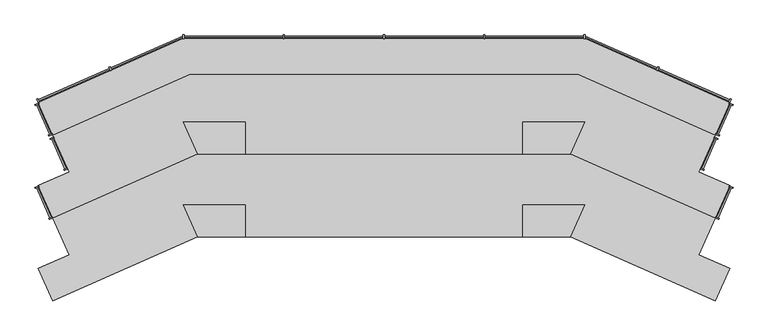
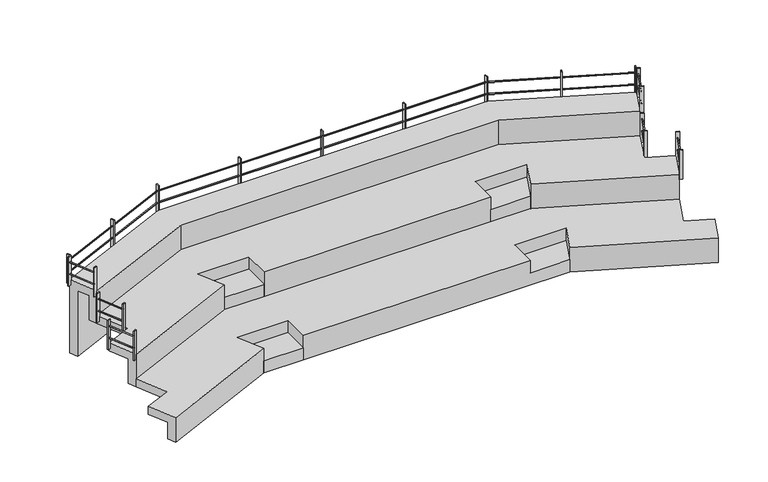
"""IFC4 building model written with IfcOpenShell, lengths in millimetres: furniture geometry, ARQ-EX-Gradas : ARQ-EX-Gradas."""

from ifc_helpers import new_model, si_unit, point, frame, frame_2d, origin, place, context, project, spatial, polyline, circle_curve, ellipse_curve, trimmed, segment, composite_curve, outline, extrude, faceted_brep, source, transform, mapped, element, save
from ifc_brep_helpers import plane_surface, cylinder_surface, advanced_brep


def furniture_39a86fb1(model_context):
    return source(origin(), model_context, "Body", "SolidModel", [
        extrude(outline(composite_curve([segment(trimmed(circle_curve(frame_2d((301.8849457, 0.0)), 8.5), [point((301.8849457, 8.5))], [point((301.8849457, -8.5))], False, "CARTESIAN"), True, "CONTINUOUS"), segment(trimmed(circle_curve(frame_2d((301.8849457, 0.0)), 8.5), [point((301.8849457, -8.5))], [point((301.8849457, 8.5))], False, "CARTESIAN"), True, "CONTINUOUS")], self_intersect=False)), frame((4266.1635944, -624.5538491, 800.0), z_axis=(0.4041473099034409, 0.9146939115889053, 0.0), x_axis=(0.0, 0.0, 1.0)), (0.0, 0.0, 1.0), 412.1943622),
        extrude(outline(composite_curve([segment(trimmed(circle_curve(frame_2d((106.8849457, 0.0)), 8.5), [point((106.8849457, 8.5))], [point((106.8849457, -8.5))], False, "CARTESIAN"), True, "CONTINUOUS"), segment(trimmed(circle_curve(frame_2d((106.8849457, 0.0)), 8.5), [point((106.8849457, -8.5))], [point((106.8849457, 8.5))], False, "CARTESIAN"), True, "CONTINUOUS")], self_intersect=False)), frame((4266.1635944, -624.5538491, 800.0), z_axis=(0.4041473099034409, 0.9146939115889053, 0.0), x_axis=(0.0, 0.0, 1.0)), (0.0, 0.0, 1.0), 412.1943622),
        extrude(outline(composite_curve([segment(trimmed(circle_curve(frame_2d((301.8849457, 0.0)), 8.5), [point((301.8849457, -8.5))], [point((301.8849457, 8.5))], False, "CARTESIAN"), True, "CONTINUOUS"), segment(trimmed(circle_curve(frame_2d((301.8849457, 0.0)), 8.5), [point((301.8849457, 8.5))], [point((301.8849457, -8.5))], False, "CARTESIAN"), True, "CONTINUOUS")], self_intersect=False)), frame((-4176.7629415, -624.5538491, 800.0), z_axis=(-0.4041473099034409, 0.9146939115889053, 0.0), x_axis=(0.0, 0.0, 1.0)), (0.0, 0.0, 1.0), 412.1943622),
        extrude(outline(composite_curve([segment(trimmed(circle_curve(frame_2d((106.8849457, 0.0)), 8.5), [point((106.8849457, -8.5))], [point((106.8849457, 8.5))], False, "CARTESIAN"), True, "CONTINUOUS"), segment(trimmed(circle_curve(frame_2d((106.8849457, 0.0)), 8.5), [point((106.8849457, 8.5))], [point((106.8849457, -8.5))], False, "CARTESIAN"), True, "CONTINUOUS")], self_intersect=False)), frame((-4176.7629415, -624.5538491, 800.0), z_axis=(-0.4041473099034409, 0.9146939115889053, 0.0), x_axis=(0.0, 0.0, 1.0)), (0.0, 0.0, 1.0), 412.1943622),
        extrude(outline(composite_curve([segment(trimmed(circle_curve(frame_2d((301.8849457, 0.0)), 8.5), [point((301.8849457, 8.5))], [point((301.8849457, -8.5))], False, "CARTESIAN"), True, "CONTINUOUS"), segment(trimmed(circle_curve(frame_2d((301.8849457, 0.0)), 8.5), [point((301.8849457, -8.5))], [point((301.8849457, 8.5))], False, "CARTESIAN"), True, "CONTINUOUS")], self_intersect=False)), frame((4076.0411383, -4.8520319, 800.0), z_axis=(0.4041473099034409, 0.9146939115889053, 0.0), x_axis=(0.0, 0.0, 1.0)), (0.0, 0.0, 1.0), 412.1943622),
        extrude(outline(composite_curve([segment(trimmed(circle_curve(frame_2d((106.8849457, 0.0)), 8.5), [point((106.8849457, 8.5))], [point((106.8849457, -8.5))], False, "CARTESIAN"), True, "CONTINUOUS"), segment(trimmed(circle_curve(frame_2d((106.8849457, 0.0)), 8.5), [point((106.8849457, -8.5))], [point((106.8849457, 8.5))], False, "CARTESIAN"), True, "CONTINUOUS")], self_intersect=False)), frame((4076.0411383, -4.8520319, 800.0), z_axis=(0.4041473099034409, 0.9146939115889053, 0.0), x_axis=(0.0, 0.0, 1.0)), (0.0, 0.0, 1.0), 412.1943622),
        extrude(outline(composite_curve([segment(trimmed(circle_curve(frame_2d((301.8849457, 0.0)), 8.5), [point((301.8849457, -8.4999999))], [point((301.8849457, 8.5000001))], False, "CARTESIAN"), True, "CONTINUOUS"), segment(trimmed(circle_curve(frame_2d((301.8849457, 0.0)), 8.5), [point((301.8849457, 8.5000001))], [point((301.8849457, -8.4999999))], False, "CARTESIAN"), True, "CONTINUOUS")], self_intersect=False)), frame((-3986.6404855, -4.8520319, 800.0), z_axis=(-0.4041473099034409, 0.9146939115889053, 0.0), x_axis=(0.0, 0.0, 1.0)), (0.0, 0.0, 1.0), 412.1943622),
        extrude(outline(composite_curve([segment(trimmed(circle_curve(frame_2d((106.8849457, 0.0)), 8.5), [point((106.8849457, -8.4999999))], [point((106.8849457, 8.5000001))], False, "CARTESIAN"), True, "CONTINUOUS"), segment(trimmed(circle_curve(frame_2d((106.8849457, 0.0)), 8.5), [point((106.8849457, 8.5000001))], [point((106.8849457, -8.4999999))], False, "CARTESIAN"), True, "CONTINUOUS")], self_intersect=False)), frame((-3986.6404855, -4.8520319, 800.0), z_axis=(-0.4041473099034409, 0.9146939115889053, 0.0), x_axis=(0.0, 0.0, 1.0)), (0.0, 0.0, 1.0), 412.1943622),
        extrude(outline(composite_curve([segment(trimmed(circle_curve(frame_2d((305.7775681, 0.0)), 8.5), [point((305.7775681, 8.4999999))], [point((305.7775681, -8.5))], False, "CARTESIAN"), True, "CONTINUOUS"), segment(trimmed(circle_curve(frame_2d((305.7775681, 0.0)), 8.5), [point((305.7775681, -8.5))], [point((305.7775681, 8.4999999))], False, "CARTESIAN"), True, "CONTINUOUS")], self_intersect=False)), frame((4268.184331, 430.0196205, 1200.0), z_axis=(0.40414730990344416, 0.9146939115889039, 0.0), x_axis=(0.0, 0.0, 1.0)), (0.0, 0.0, 1.0), 410.0),
        extrude(outline(composite_curve([segment(trimmed(circle_curve(frame_2d((110.7775681, 0.0)), 8.5), [point((110.7775681, 8.4999999))], [point((110.7775681, -8.5))], False, "CARTESIAN"), True, "CONTINUOUS"), segment(trimmed(circle_curve(frame_2d((110.7775681, 0.0)), 8.5), [point((110.7775681, -8.5))], [point((110.7775681, 8.4999999))], False, "CARTESIAN"), True, "CONTINUOUS")], self_intersect=False)), frame((4268.184331, 430.0196205, 1200.0), z_axis=(0.40414730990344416, 0.9146939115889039, 0.0), x_axis=(0.0, 0.0, 1.0)), (0.0, 0.0, 1.0), 410.0),
        extrude(outline(composite_curve([segment(trimmed(circle_curve(frame_2d((305.7775681, 0.0)), 8.5), [point((305.7775681, -8.4999999))], [point((305.7775681, 8.5))], False, "CARTESIAN"), True, "CONTINUOUS"), segment(trimmed(circle_curve(frame_2d((305.7775681, 0.0)), 8.5), [point((305.7775681, 8.5))], [point((305.7775681, -8.4999999))], False, "CARTESIAN"), True, "CONTINUOUS")], self_intersect=False)), frame((-4178.7836781, 430.0196205, 1200.0), z_axis=(-0.40414730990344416, 0.9146939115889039, 0.0), x_axis=(0.0, 0.0, 1.0)), (0.0, 0.0, 1.0), 410.0),
        extrude(outline(composite_curve([segment(trimmed(circle_curve(frame_2d((110.7775681, 0.0)), 8.5), [point((110.7775681, -8.4999999))], [point((110.7775681, 8.5))], False, "CARTESIAN"), True, "CONTINUOUS"), segment(trimmed(circle_curve(frame_2d((110.7775681, 0.0)), 8.5), [point((110.7775681, 8.5))], [point((110.7775681, -8.4999999))], False, "CARTESIAN"), True, "CONTINUOUS")], self_intersect=False)), frame((-4178.7836781, 430.0196205, 1200.0), z_axis=(-0.40414730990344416, 0.9146939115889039, 0.0), x_axis=(0.0, 0.0, 1.0)), (0.0, 0.0, 1.0), 410.0),
        advanced_brep(
        [(-4329.5181998, 870.1461409, 1306.5093631), (-4322.6476955, 854.5963444, 1306.5093631), (-2502.0938257, 1677.5732326, 1306.5093631), (-2498.5055214, 1660.5732326, 1306.5093631), (2591.4944786, 1677.5732326, 1306.5093631), (2587.9061743, 1660.5732326, 1306.5093631), (4432.6392613, 864.0839313, 1306.5093631), (4425.768757, 848.5341348, 1306.5093631)],
        [
            (0, 1, circle_curve(frame((-4326.0829476, 862.3712427, 1306.5093631), z_axis=(-0.9146939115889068, -0.40414730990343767, 0.0), x_axis=(0.40414730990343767, -0.9146939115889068, 0.0)), 8.5)),
            (1, 0, circle_curve(frame((-4326.0829476, 862.3712427, 1306.5093631), z_axis=(-0.9146939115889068, -0.40414730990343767, 0.0), x_axis=(0.40414730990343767, -0.9146939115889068, 0.0)), 8.5)),
            (0, 2),
            (2, 3, ellipse_curve(frame((-2500.2996736, 1669.0732326, 1306.5093631), z_axis=(-0.9784410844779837, -0.20652613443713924, 0.0), x_axis=(0.20652613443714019, -0.9784410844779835, 0.0)), 8.6872885, 8.5)),
            (3, 1),
            (3, 2, ellipse_curve(frame((-2500.2996736, 1669.0732326, 1306.5093631), z_axis=(-0.9784410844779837, -0.20652613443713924, 0.0), x_axis=(0.20652613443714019, -0.9784410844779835, 0.0)), 8.6872885, 8.5)),
            (2, 4),
            (4, 5, ellipse_curve(frame((2589.7003264, 1669.0732326, 1306.5093631), z_axis=(-0.9784410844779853, 0.20652613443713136, 0.0), x_axis=(-0.2065261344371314, -0.9784410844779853, 0.0)), 8.6872885, 8.5)),
            (5, 3),
            (5, 4, ellipse_curve(frame((2589.7003264, 1669.0732326, 1306.5093631), z_axis=(-0.9784410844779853, 0.20652613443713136, 0.0), x_axis=(-0.2065261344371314, -0.9784410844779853, 0.0)), 8.6872885, 8.5)),
            (6, 7, circle_curve(frame((4429.2040092, 856.309033, 1306.5093631), z_axis=(0.9146939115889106, -0.404147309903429, 0.0), x_axis=(-0.404147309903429, -0.9146939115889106, 0.0)), 8.5)),
            (7, 6, circle_curve(frame((4429.2040092, 856.309033, 1306.5093631), z_axis=(0.9146939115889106, -0.404147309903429, 0.0), x_axis=(-0.404147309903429, -0.9146939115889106, 0.0)), 8.5)),
            (4, 6),
            (7, 5),
        ],
        [
            plane_surface(frame((-4326.0829476, 862.3712427, 1200.0), z_axis=(-0.9146939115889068, -0.4041473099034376, 0.0), x_axis=(0.0, 0.0, 1.0))),
            cylinder_surface(frame((-4326.0829476, 862.3712427, 1306.5093631), z_axis=(-0.9146939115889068, -0.40414730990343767, 0.0), x_axis=(0.40414730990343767, -0.9146939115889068, 0.0)), 8.5),
            cylinder_surface(frame((-2500.2996736, 1669.0732326, 1306.5093631), z_axis=(-1.0, 0.0, 0.0), x_axis=(0.0, -1.0, 0.0)), 8.5),
            plane_surface(frame((4429.2040092, 856.309033, 1200.0), z_axis=(0.9146939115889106, -0.4041473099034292, 0.0), x_axis=(0.0, 0.0, 1.0))),
            cylinder_surface(frame((2589.7003264, 1669.0732326, 1306.5093631), z_axis=(-0.9146939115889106, 0.404147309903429, 0.0), x_axis=(-0.404147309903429, -0.9146939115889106, 0.0)), 8.5),
        ],
        [
            (0, [[1, 2]]),
            (1, [[-1, 3, 4, 5]]),
            (1, [[-2, -5, 6, -3]]),
            (2, [[-4, 7, 8, 9]]),
            (2, [[-6, -9, 10, -7]]),
            (3, [[11, 12]]),
            (4, [[-8, 13, -12, 14]]),
            (4, [[-10, -14, -11, -13]]),
        ],
    ),
        advanced_brep(
        [(-4329.5181998, 870.1461409, 1501.5093631), (-4322.6476955, 854.5963444, 1501.5093631), (-2502.0938257, 1677.5732326, 1501.5093631), (-2498.5055214, 1660.5732326, 1501.5093631), (2591.4944786, 1677.5732326, 1501.5093631), (2587.9061743, 1660.5732326, 1501.5093631), (4432.6392613, 864.0839313, 1501.5093631), (4425.768757, 848.5341348, 1501.5093631)],
        [
            (0, 1, circle_curve(frame((-4326.0829476, 862.3712427, 1501.5093631), z_axis=(-0.9146939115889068, -0.40414730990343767, 0.0), x_axis=(0.40414730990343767, -0.9146939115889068, 0.0)), 8.5)),
            (1, 0, circle_curve(frame((-4326.0829476, 862.3712427, 1501.5093631), z_axis=(-0.9146939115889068, -0.40414730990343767, 0.0), x_axis=(0.40414730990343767, -0.9146939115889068, 0.0)), 8.5)),
            (0, 2),
            (2, 3, ellipse_curve(frame((-2500.2996736, 1669.0732326, 1501.5093631), z_axis=(-0.9784410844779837, -0.20652613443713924, 0.0), x_axis=(0.20652613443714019, -0.9784410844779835, 0.0)), 8.6872885, 8.5)),
            (3, 1),
            (3, 2, ellipse_curve(frame((-2500.2996736, 1669.0732326, 1501.5093631), z_axis=(-0.9784410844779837, -0.20652613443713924, 0.0), x_axis=(0.20652613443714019, -0.9784410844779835, 0.0)), 8.6872885, 8.5)),
            (2, 4),
            (4, 5, ellipse_curve(frame((2589.7003264, 1669.0732326, 1501.5093631), z_axis=(-0.9784410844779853, 0.20652613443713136, 0.0), x_axis=(-0.2065261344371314, -0.9784410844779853, 0.0)), 8.6872885, 8.5)),
            (5, 3),
            (5, 4, ellipse_curve(frame((2589.7003264, 1669.0732326, 1501.5093631), z_axis=(-0.9784410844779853, 0.20652613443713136, 0.0), x_axis=(-0.2065261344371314, -0.9784410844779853, 0.0)), 8.6872885, 8.5)),
            (6, 7, circle_curve(frame((4429.2040092, 856.309033, 1501.5093631), z_axis=(0.9146939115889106, -0.404147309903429, 0.0), x_axis=(-0.404147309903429, -0.9146939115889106, 0.0)), 8.5)),
            (7, 6, circle_curve(frame((4429.2040092, 856.309033, 1501.5093631), z_axis=(0.9146939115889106, -0.404147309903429, 0.0), x_axis=(-0.404147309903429, -0.9146939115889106, 0.0)), 8.5)),
            (4, 6),
            (7, 5),
        ],
        [
            plane_surface(frame((-4326.0829476, 862.3712427, 1200.0), z_axis=(-0.9146939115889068, -0.4041473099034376, 0.0), x_axis=(0.0, 0.0, 1.0))),
            cylinder_surface(frame((-4326.0829476, 862.3712427, 1501.5093631), z_axis=(-0.9146939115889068, -0.40414730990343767, 0.0), x_axis=(0.40414730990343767, -0.9146939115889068, 0.0)), 8.5),
            cylinder_surface(frame((-2500.2996736, 1669.0732326, 1501.5093631), z_axis=(-1.0, 0.0, 0.0), x_axis=(0.0, -1.0, 0.0)), 8.5),
            plane_surface(frame((4429.2040092, 856.309033, 1200.0), z_axis=(0.9146939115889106, -0.4041473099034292, 0.0), x_axis=(0.0, 0.0, 1.0))),
            cylinder_surface(frame((2589.7003264, 1669.0732326, 1501.5093631), z_axis=(-0.9146939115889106, 0.404147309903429, 0.0), x_axis=(-0.404147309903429, -0.9146939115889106, 0.0)), 8.5),
        ],
        [
            (0, [[1, 2]]),
            (1, [[-1, 3, 4, 5]]),
            (1, [[-2, -5, 6, -3]]),
            (2, [[-4, 7, 8, 9]]),
            (2, [[-6, -9, 10, -7]]),
            (3, [[11, 12]]),
            (4, [[-8, 13, -12, 14]]),
            (4, [[-10, -14, -11, -13]]),
        ],
    ),
        faceted_brep([(1794.7003264, 591.7416852, 600.0), (1794.7003264, 180.129425, 600.0), (2407.834037, 180.129425, 600.0), (2589.7003264, 591.7416852, 600.0), (1794.7003264, 591.7416852, 470.0), (2589.7003264, 591.7416852, 470.0), (2465.273088, 310.129425, 470.0), (1794.7003264, 310.129425, 470.0), (2407.834037, 180.129425, 400.0), (2465.273088, 310.129425, 400.0), (1794.7003264, 180.129425, 400.0), (1794.7003264, 310.129425, 400.0)], [[[0, 1, 2, 3]], [[4, 5, 6, 7]], [[0, 3, 5, 4]], [[3, 2, 8, 9, 6, 5]], [[8, 2, 1, 10]], [[10, 1, 0, 4, 7, 11]], [[10, 11, 9, 8]], [[9, 11, 7, 6]]]),
        faceted_brep([(-1705.2996736, -869.870575, 0.0), (-2318.4333841, -869.870575, 0.0), (-2375.8724352, -739.870575, 0.0), (-1705.2996736, -739.870575, 0.0), (-1705.2996736, -739.870575, 70.0), (-1705.2996736, -458.2583148, 70.0), (-1705.2996736, -458.2583148, 200.0), (-1705.2996736, -869.870575, 200.0), (-2375.8724352, -739.870575, 70.0), (-2318.4333841, -869.870575, 200.0), (-2500.2996736, -458.2583148, 200.0), (-2500.2996736, -458.2583148, 70.0)], [[[0, 1, 2, 3]], [[0, 3, 4, 5, 6, 7]], [[3, 2, 8, 4]], [[2, 1, 9, 10, 11, 8]], [[9, 1, 0, 7]], [[6, 10, 9, 7]], [[11, 5, 4, 8]], [[10, 6, 5, 11]]]),
        faceted_brep([(-1705.2996736, -458.2583148, 70.0), (-2500.2996736, -458.2583148, 70.0), (-2370.9725344, -750.9603665, 70.0), (-2489.8827429, -803.4995168, 70.0), (-2699.8627711, -328.2583148, 70.0), (-1575.2996736, -328.2583148, 70.0), (-1575.2996736, -739.870575, 70.0), (-1705.2996736, -739.870575, 70.0), (-1705.2996736, -739.870575, 0.0), (-1705.2996736, -869.870575, 0.0), (-1705.2996736, -869.870575, 400.0), (-1705.2996736, -458.2583148, 400.0), (-1575.2996736, -328.2583148, 270.0), (-1575.2996736, -739.870575, 270.0), (-2699.8627711, -328.2583148, 270.0), (-2489.8827429, -803.4995168, 270.0), (-2500.2996736, -458.2583148, 400.0), (-2318.4333841, -869.870575, 400.0), (-2318.4333841, -869.870575, 0.0), (-2370.9725344, -750.9603665, 0.0), (1794.7003264, -458.2583148, 0.0), (2589.7003264, -458.2583148, 0.0), (2589.7003264, -458.2583148, 70.0), (1794.7003264, -458.2583148, 70.0), (2589.7003264, -458.2583148, 400.0), (1794.7003264, -458.2583148, 400.0), (1794.7003264, -458.2583148, 200.0), (2589.7003264, -458.2583148, 200.0), (-2318.4333841, 180.129425, 270.0), (2407.834037, 180.129425, 270.0), (4237.234037, -628.170575, 270.0), (4030.9456885, -1095.0565143, 270.0), (4419.1003264, -1266.5583148, 270.0), (4289.7731873, -1559.2603665, 270.0), (2579.2833958, -803.4995168, 270.0), (2789.263424, -328.2583148, 270.0), (1664.7003264, -328.2583148, 270.0), (1664.7003264, -739.870575, 270.0), (-4200.3725344, -1559.2603665, 270.0), (-4329.6996736, -1266.5583148, 270.0), (-3941.5450356, -1095.0565143, 270.0), (-4147.8333841, -628.170575, 270.0), (-2318.4333841, 180.129425, 400.0), (-4147.8333841, -628.170575, 400.0), (-3941.5450356, -1095.0565143, 400.0), (-4329.6996736, -1266.5583148, 400.0), (-4147.8333841, -1678.170575, 400.0), (1794.7003264, -869.870575, 400.0), (2407.834037, -869.870575, 400.0), (4237.234037, -1678.170575, 400.0), (4419.1003264, -1266.5583148, 400.0), (4030.9456885, -1095.0565143, 400.0), (4237.234037, -628.170575, 400.0), (2407.834037, 180.129425, 400.0), (-4200.3725344, -1559.2603665, 0.0), (-4147.8333841, -1678.170575, 0.0), (1794.7003264, -869.870575, 200.0), (2407.834037, -869.870575, 200.0), (2465.273088, -739.870575, 70.0), (1794.7003264, -739.870575, 70.0), (2407.834037, -869.870575, 0.0), (4237.234037, -1678.170575, 0.0), (4289.7731873, -1559.2603665, 0.0), (2465.273088, -739.870575, 0.0), (2579.2833958, -803.4995168, 0.0), (1664.7003264, -739.870575, 0.0), (1664.7003264, -328.2583148, 0.0), (2789.263424, -328.2583148, 0.0), (1794.7003264, -739.870575, 0.0)], [[[0, 1, 2, 3, 4, 5, 6, 7]], [[0, 7, 8, 9, 10, 11]], [[6, 5, 12, 13]], [[5, 4, 14, 12]], [[4, 3, 15, 14]], [[2, 1, 16, 17, 18, 19]], [[1, 0, 11, 16]], [[20, 21, 22, 23]], [[24, 25, 26, 27]], [[28, 29, 30, 31, 32, 33, 34, 35, 36, 37, 13, 12, 14, 15, 38, 39, 40, 41]], [[42, 43, 44, 45, 46, 17, 16, 11, 10, 47, 25, 24, 48, 49, 50, 51, 52, 53]], [[28, 41, 43, 42]], [[41, 40, 44, 43]], [[31, 30, 52, 51]], [[30, 29, 53, 52]], [[29, 28, 42, 53]], [[45, 39, 38, 54, 55, 46]], [[39, 45, 44, 40]], [[54, 38, 15, 3, 2, 19]], [[55, 54, 19, 18]], [[46, 55, 18, 17]], [[56, 57, 27, 26]], [[23, 22, 58, 59]], [[57, 56, 47, 10, 9, 60]], [[50, 49, 61, 62, 33, 32]], [[22, 21, 63, 58]], [[48, 24, 27, 57]], [[50, 32, 31, 51]], [[33, 62, 64, 34]], [[62, 61, 60, 9, 8, 65, 66, 67, 64], [20, 68, 63, 21]], [[61, 49, 48, 57, 60]], [[20, 23, 59, 68]], [[25, 47, 56, 26]], [[8, 7, 6, 13, 37, 65]], [[36, 66, 65, 37]], [[67, 66, 36, 35]], [[64, 67, 35, 34]], [[63, 68, 59, 58]]]),
        faceted_brep([(4030.9456885, -45.0565143, 800.0), (4237.234037, 421.829425, 800.0), (2494.7158026, 1191.7416852, 800.0), (-2405.3151497, 1191.7416852, 800.0), (-4147.8333841, 421.829425, 800.0), (-3941.5450356, -45.0565143, 800.0), (-4329.6996736, -216.5583148, 800.0), (-4147.8333841, -628.170575, 800.0), (-2318.4333841, 180.129425, 800.0), (-2500.2996736, 591.7416852, 800.0), (-1705.2996736, 591.7416852, 800.0), (-1705.2996736, 180.129425, 800.0), (1794.7003264, 180.129425, 800.0), (1794.7003264, 591.7416852, 800.0), (2589.7003264, 591.7416852, 800.0), (2407.834037, 180.129425, 800.0), (4237.234037, -628.170575, 800.0), (4419.1003264, -216.5583148, 800.0), (-3941.5450356, -45.0565143, 670.0), (-4147.8333841, 421.829425, 670.0), (-2405.3151497, 1191.7416852, 670.0), (2494.7158026, 1191.7416852, 670.0), (4237.234037, 421.829425, 670.0), (4030.9456885, -45.0565143, 670.0), (4419.1003264, -216.5583148, 670.0), (4289.7731873, -509.2603665, 670.0), (2579.2833958, 246.5004832, 670.0), (2789.263424, 721.7416852, 670.0), (1664.7003264, 721.7416852, 670.0), (1664.7003264, 310.129425, 670.0), (-1575.2996736, 310.129425, 670.0), (-1575.2996736, 721.7416852, 670.0), (-2699.8627711, 721.7416852, 670.0), (-2489.8827429, 246.5004832, 670.0), (-4200.3725344, -509.2603665, 670.0), (-4329.6996736, -216.5583148, 670.0), (1794.7003264, 591.7416852, 400.0), (2589.7003264, 591.7416852, 400.0), (-2500.2996736, 591.7416852, 470.0), (-1705.2996736, 591.7416852, 470.0), (-2370.9725344, 299.0396335, 470.0), (-2489.8827429, 246.5004832, 470.0), (-2699.8627711, 721.7416852, 470.0), (-1575.2996736, 721.7416852, 470.0), (-1575.2996736, 310.129425, 470.0), (-1705.2996736, 310.129425, 470.0), (-1705.2996736, 310.129425, 270.0), (-1705.2996736, 180.129425, 270.0), (-2318.4333841, 180.129425, 270.0), (-2370.9725344, 299.0396335, 270.0), (-4200.3725344, -509.2603665, 270.0), (-4147.8333841, -628.170575, 270.0), (1794.7003264, 180.129425, 270.0), (1794.7003264, 310.129425, 270.0), (1794.7003264, 310.129425, 400.0), (1664.7003264, 310.129425, 400.0), (4237.234037, -628.170575, 270.0), (4289.7731873, -509.2603665, 270.0), (2460.3731873, 299.0396335, 270.0), (2407.834037, 180.129425, 270.0), (2460.3731873, 299.0396335, 400.0), (2579.2833958, 246.5004832, 400.0), (1664.7003264, 721.7416852, 400.0), (2789.263424, 721.7416852, 400.0)], [[[0, 1, 2, 3, 4, 5, 6, 7, 8, 9, 10, 11, 12, 13, 14, 15, 16, 17]], [[18, 19, 20, 21, 22, 23, 24, 25, 26, 27, 28, 29, 30, 31, 32, 33, 34, 35]], [[1, 0, 23, 22]], [[2, 1, 22, 21]], [[3, 2, 21, 20]], [[4, 3, 20, 19]], [[5, 4, 19, 18]], [[14, 13, 36, 37]], [[38, 39, 10, 9]], [[39, 38, 40, 41, 42, 43, 44, 45]], [[39, 45, 46, 47, 11, 10]], [[44, 43, 31, 30]], [[43, 42, 32, 31]], [[42, 41, 33, 32]], [[40, 38, 9, 8, 48, 49]], [[6, 35, 34, 50, 51, 7]], [[35, 6, 5, 18]], [[50, 34, 33, 41, 40, 49]], [[51, 50, 49, 48]], [[7, 51, 48, 8]], [[36, 13, 12, 52, 53, 54]], [[53, 46, 45, 44, 30, 29, 55, 54]], [[47, 46, 53, 52]], [[11, 47, 52, 12]], [[17, 16, 56, 57, 25, 24]], [[58, 59, 15, 14, 37, 60]], [[17, 24, 23, 0]], [[25, 57, 58, 60, 61, 26]], [[57, 56, 59, 58]], [[56, 16, 15, 59]], [[36, 54, 55, 62, 63, 61, 60, 37]], [[62, 55, 29, 28]], [[63, 62, 28, 27]], [[61, 63, 27, 26]]]),
        faceted_brep([(-1705.2996736, 591.7416852, 600.0), (-2500.2996736, 591.7416852, 600.0), (-2318.4333841, 180.129425, 600.0), (-1705.2996736, 180.129425, 600.0), (-2500.2996736, 591.7416852, 470.0), (-1705.2996736, 591.7416852, 470.0), (-1705.2996736, 310.129425, 470.0), (-2375.8724352, 310.129425, 470.0), (-2375.8724352, 310.129425, 400.0), (-2318.4333841, 180.129425, 400.0), (-1705.2996736, 180.129425, 400.0), (-1705.2996736, 310.129425, 400.0)], [[[0, 1, 2, 3]], [[4, 5, 6, 7]], [[1, 0, 5, 4]], [[2, 1, 4, 7, 8, 9]], [[3, 2, 9, 10]], [[0, 3, 10, 11, 6, 5]], [[10, 9, 8, 11]], [[11, 8, 7, 6]]]),
        extrude(outline(polyline([(-4136.42259, 396.0037331), (-4130.3603803, 382.2833244), (-4176.0950759, 362.0759589), (-4182.1572855, 375.7963676), (-4136.42259, 396.0037331)])), frame((0.0, 0.0, 725.0), z_axis=(0.0, 0.0, 1.0), x_axis=(1.0, 0.0, 0.0)), (0.0, 0.0, 1.0), 475.0),
        extrude(outline(polyline([(-3963.7731377, 5.2516509), (-3957.710928, -8.4687578), (-4003.4456236, -28.6761233), (-4009.5078332, -14.9557146), (-3963.7731377, 5.2516509)])), frame((0.0, 0.0, 725.0), z_axis=(0.0, 0.0, 1.0), x_axis=(1.0, 0.0, 0.0)), (0.0, 0.0, 1.0), 475.0),
        extrude(outline(polyline([(-4326.5450461, -223.6980841), (-4320.4828364, -237.4184928), (-4366.217532, -257.6258583), (-4372.2797416, -243.9054496), (-4326.5450461, -223.6980841)])), frame((0.0, 0.0, 725.0), z_axis=(0.0, 0.0, 1.0), x_axis=(1.0, 0.0, 0.0)), (0.0, 0.0, 1.0), 475.0),
        extrude(outline(polyline([(-4153.8955938, -614.4501663), (-4147.8333841, -628.170575), (-4193.5680797, -648.3779405), (-4199.6302893, -634.6575318), (-4153.8955938, -614.4501663)])), frame((0.0, 0.0, 725.0), z_axis=(0.0, 0.0, 1.0), x_axis=(1.0, 0.0, 0.0)), (0.0, 0.0, 1.0), 475.0),
        extrude(outline(polyline([(4415.9456989, -223.6980841), (4461.6803945, -243.9054496), (4455.6181849, -257.6258583), (4409.8834893, -237.4184928), (4415.9456989, -223.6980841)])), frame((0.0, 0.0, 725.0), z_axis=(0.0, 0.0, 1.0), x_axis=(1.0, 0.0, 0.0)), (0.0, 0.0, 1.0), 475.0),
        extrude(outline(polyline([(4243.2962466, -614.4501663), (4289.0309422, -634.6575318), (4282.9687326, -648.3779405), (4237.234037, -628.170575), (4243.2962466, -614.4501663)])), frame((0.0, 0.0, 725.0), z_axis=(0.0, 0.0, 1.0), x_axis=(1.0, 0.0, 0.0)), (0.0, 0.0, 1.0), 475.0),
        extrude(outline(polyline([(4225.8232428, 396.0037331), (4271.5579384, 375.7963676), (4265.4957288, 362.0759589), (4219.7610332, 382.2833244), (4225.8232428, 396.0037331)])), frame((0.0, 0.0, 725.0), z_axis=(0.0, 0.0, 1.0), x_axis=(1.0, 0.0, 0.0)), (0.0, 0.0, 1.0), 475.0),
        extrude(outline(polyline([(4053.1737905, 5.2516509), (4098.9084861, -14.9557146), (4092.8462765, -28.6761233), (4047.1115809, -8.4687578), (4053.1737905, 5.2516509)])), frame((0.0, 0.0, 725.0), z_axis=(0.0, 0.0, 1.0), x_axis=(1.0, 0.0, 0.0)), (0.0, 0.0, 1.0), 475.0),
        extrude(outline(polyline([(-2485.2996736, 1641.7416852), (-2500.2996736, 1641.7416852), (-2500.2996736, 1691.7416852), (-2485.2996736, 1691.7416852), (-2485.2996736, 1641.7416852)])), frame((0.0, 0.0, 1125.0), z_axis=(0.0, 0.0, 1.0), x_axis=(1.0, 0.0, 0.0)), (0.0, 0.0, 1.0), 475.0),
        extrude(outline(polyline([(-1216.5496736, 1641.7416852), (-1231.5496736, 1641.7416852), (-1231.5496736, 1691.7416852), (-1216.5496736, 1691.7416852), (-1216.5496736, 1641.7416852)])), frame((0.0, 0.0, 1125.0), z_axis=(0.0, 0.0, 1.0), x_axis=(1.0, 0.0, 0.0)), (0.0, 0.0, 1.0), 475.0),
        extrude(outline(polyline([(52.2003264, 1641.7416852), (37.2003264, 1641.7416852), (37.2003264, 1691.7416852), (52.2003264, 1691.7416852), (52.2003264, 1641.7416852)])), frame((0.0, 0.0, 1125.0), z_axis=(0.0, 0.0, 1.0), x_axis=(1.0, 0.0, 0.0)), (0.0, 0.0, 1.0), 475.0),
        extrude(outline(polyline([(1320.9503264, 1641.7416852), (1305.9503264, 1641.7416852), (1305.9503264, 1691.7416852), (1320.9503264, 1691.7416852), (1320.9503264, 1641.7416852)])), frame((0.0, 0.0, 1125.0), z_axis=(0.0, 0.0, 1.0), x_axis=(1.0, 0.0, 0.0)), (0.0, 0.0, 1.0), 475.0),
        extrude(outline(polyline([(2589.7003264, 1641.7416852), (2574.7003264, 1641.7416852), (2574.7003264, 1691.7416852), (2589.7003264, 1691.7416852), (2589.7003264, 1641.7416852)])), frame((0.0, 0.0, 1125.0), z_axis=(0.0, 0.0, 1.0), x_axis=(1.0, 0.0, 0.0)), (0.0, 0.0, 1.0), 475.0),
        extrude(outline(polyline([(-4315.9792649, 839.5038949), (-4329.6996736, 833.4416852), (-4349.9070391, 879.1763808), (-4336.1866304, 885.2385905), (-4315.9792649, 839.5038949)])), frame((0.0, 0.0, 1125.0), z_axis=(0.0, 0.0, 1.0), x_axis=(1.0, 0.0, 0.0)), (0.0, 0.0, 1.0), 475.0),
        extrude(outline(polyline([(-3401.8644821, 1243.3953232), (-3415.5848908, 1237.3331135), (-3435.7922563, 1283.0678091), (-3422.0718476, 1289.1300188), (-3401.8644821, 1243.3953232)])), frame((0.0, 0.0, 1125.0), z_axis=(0.0, 0.0, 1.0), x_axis=(1.0, 0.0, 0.0)), (0.0, 0.0, 1.0), 475.0),
        extrude(outline(polyline([(4405.3799178, 839.5038949), (4425.5872833, 885.2385905), (4439.3076919, 879.1763808), (4419.1003264, 833.4416852), (4405.3799178, 839.5038949)])), frame((0.0, 0.0, 1125.0), z_axis=(0.0, 0.0, 1.0), x_axis=(1.0, 0.0, 0.0)), (0.0, 0.0, 1.0), 475.0),
        extrude(outline(polyline([(3491.265135, 1243.3953232), (3511.4725005, 1289.1300188), (3525.1929091, 1283.0678091), (3504.9855436, 1237.3331135), (3491.265135, 1243.3953232)])), frame((0.0, 0.0, 1125.0), z_axis=(0.0, 0.0, 1.0), x_axis=(1.0, 0.0, 0.0)), (0.0, 0.0, 1.0), 475.0),
        extrude(outline(polyline([(-4327.678937, 828.8682157), (-4321.6167274, 815.147807), (-4367.3514229, 794.9404415), (-4373.4136326, 808.6608502), (-4327.678937, 828.8682157)])), frame((0.0, 0.0, 1125.0), z_axis=(0.0, 0.0, 1.0), x_axis=(1.0, 0.0, 0.0)), (0.0, 0.0, 1.0), 475.0),
        extrude(outline(polyline([(-4155.9163303, 440.1233033), (-4149.8541207, 426.4028946), (-4195.5888162, 406.1955291), (-4201.6510259, 419.9159378), (-4155.9163303, 440.1233033)])), frame((0.0, 0.0, 1125.0), z_axis=(0.0, 0.0, 1.0), x_axis=(1.0, 0.0, 0.0)), (0.0, 0.0, 1.0), 475.0),
        extrude(outline(polyline([(4245.3169832, 440.1233033), (4291.0516788, 419.9159378), (4284.9894691, 406.1955291), (4239.2547735, 426.4028946), (4245.3169832, 440.1233033)])), frame((0.0, 0.0, 1125.0), z_axis=(0.0, 0.0, 1.0), x_axis=(1.0, 0.0, 0.0)), (0.0, 0.0, 1.0), 475.0),
        extrude(outline(polyline([(4417.0795899, 828.8682157), (4462.8142855, 808.6608502), (4456.7520758, 794.9404415), (4411.0173802, 815.147807), (4417.0795899, 828.8682157)])), frame((0.0, 0.0, 1125.0), z_axis=(0.0, 0.0, 1.0), x_axis=(1.0, 0.0, 0.0)), (0.0, 0.0, 1.0), 475.0),
        faceted_brep([(-4329.6996736, 833.4416852, 0.0), (-4277.1605233, 714.5314767, 0.0), (-4277.1605233, 714.5314767, 1070.0), (-4200.3725344, 540.7396335, 1070.0), (-4200.3725344, 540.7396335, 670.0), (-4147.8333841, 421.829425, 670.0), (-4147.8333841, 421.829425, 1200.0), (-4329.6996736, 833.4416852, 1200.0), (4419.1003264, 833.4416852, 1200.0), (4237.234037, 421.829425, 1200.0), (4237.234037, 421.829425, 670.0), (4289.7731873, 540.7396335, 670.0), (4289.7731873, 540.7396335, 1070.0), (4366.5611761, 714.5314767, 1070.0), (4366.5611761, 714.5314767, 0.0), (4419.1003264, 833.4416852, 0.0), (-2500.2996736, 1641.7416852, 1200.0), (-2500.2996736, 1641.7416852, 1070.0), (-2500.2996736, 1641.7416852, 0.0), (2522.1557762, 1321.7416852, 1070.0), (-2432.7551233, 1321.7416852, 1070.0), (-2447.7605233, 1522.8314767, 1070.0), (-985.2996736, 1641.7416852, 1070.0), (-985.2996736, 1511.7416852, 1070.0), (1074.7003264, 1511.7416852, 1070.0), (1074.7003264, 1641.7416852, 1070.0), (2589.7003264, 1641.7416852, 1070.0), (2537.1611761, 1522.8314767, 1070.0), (-2432.7551233, 1321.7416852, 670.0), (2522.1557762, 1321.7416852, 670.0), (2494.7158026, 1191.7416852, 670.0), (-2405.3151497, 1191.7416852, 670.0), (-2405.3151497, 1191.7416852, 1200.0), (2494.7158026, 1191.7416852, 1200.0), (2589.7003264, 1641.7416852, 1200.0), (1074.7003264, 1641.7416852, 0.0), (-985.2996736, 1641.7416852, 0.0), (2589.7003264, 1641.7416852, 0.0), (-2447.7605233, 1522.8314767, 0.0), (2537.1611761, 1522.8314767, 0.0), (-985.2996736, 1511.7416852, 0.0), (1074.7003264, 1511.7416852, 0.0)], [[[0, 1, 2, 3, 4, 5, 6, 7]], [[8, 9, 10, 11, 12, 13, 14, 15]], [[0, 7, 16, 17, 18]], [[12, 19, 20, 3, 2, 21, 17, 22, 23, 24, 25, 26, 27, 13]], [[4, 3, 20, 28]], [[5, 4, 28, 29, 11, 10, 30, 31]], [[6, 5, 31, 32]], [[7, 6, 32, 33, 9, 8, 34, 16]], [[17, 16, 34, 26, 25, 35, 36, 22]], [[20, 19, 29, 28]], [[31, 30, 33, 32]], [[8, 15, 37, 26, 34]], [[12, 11, 29, 19]], [[10, 9, 33, 30]], [[1, 0, 18, 38]], [[14, 39, 37, 15]], [[40, 36, 35, 41]], [[1, 38, 21, 2]], [[38, 18, 17, 21]], [[37, 39, 27, 26]], [[39, 14, 13, 27]], [[36, 40, 23, 22]], [[41, 35, 25, 24]], [[40, 41, 24, 23]]]),
    ])


if __name__ == "__main__":
    model = new_model("IFC4")
    model_context = context("Model", 3, world=origin())
    ifc_project = project(units=[si_unit("LENGTHUNIT", "METRE", prefix="MILLI")], contexts=[model_context])
    site = spatial("IfcSite", under=ifc_project)
    building = spatial("IfcBuilding", under=site)
    placement = place(None, origin())
    furniture_shape = furniture_39a86fb1(model_context)
    element("IfcFurniture", 1, ObjectType="ARQ-EX-Gradas : ARQ-EX-Gradas", at=placement, inside=building, context=model_context, shape_type="MappedRepresentation", body=[
        mapped(furniture_shape, transform((0.0, 0.0, 0.0), x_axis=(1.0, 0.0, 0.0), y_axis=(0.0, 1.0, 0.0), z_axis=(0.0, 0.0, 1.0))),
    ])
    save(model, "model.ifc")
